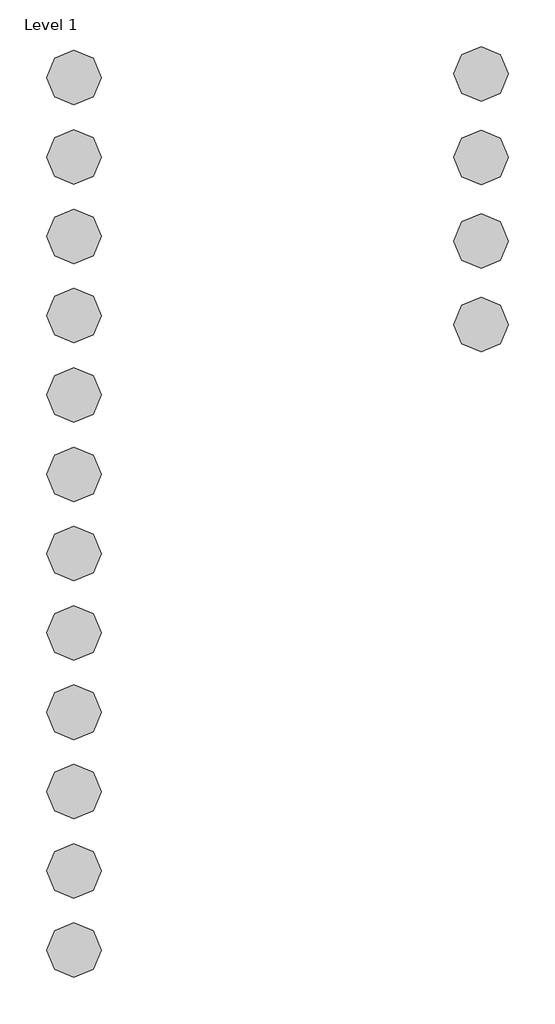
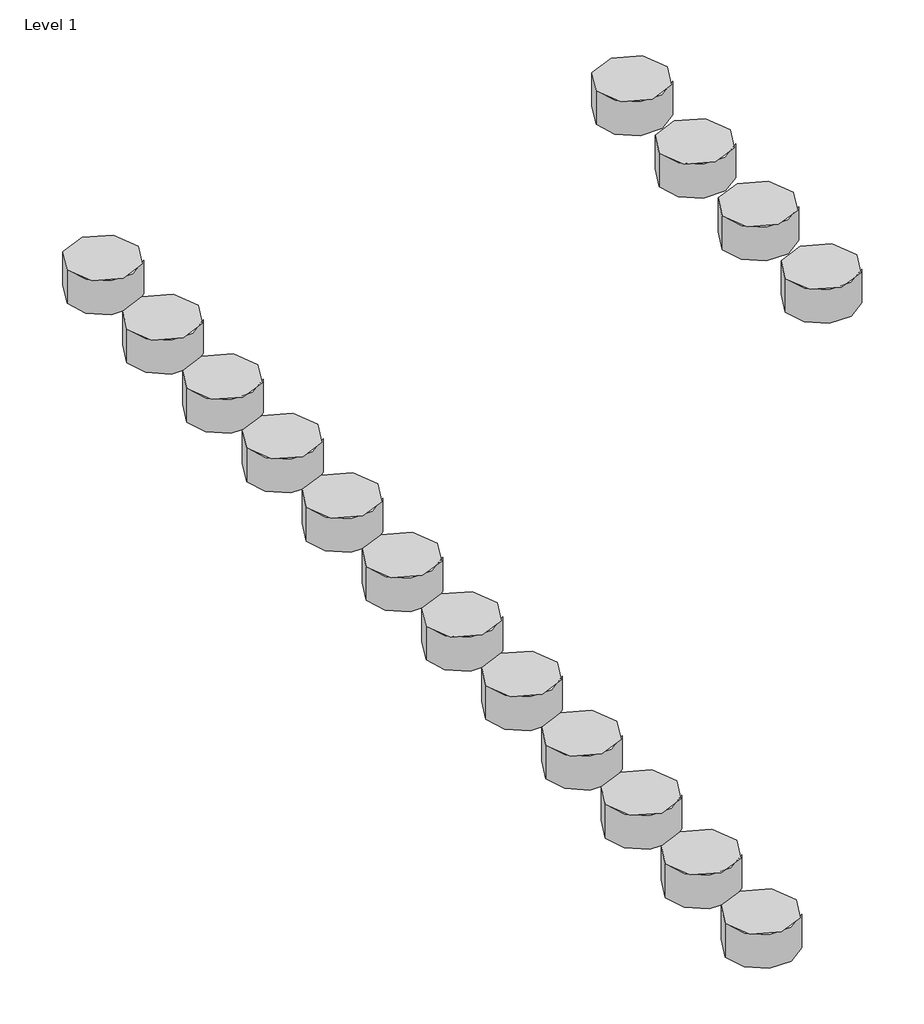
# One storey, incomplete: 16 proxies.
"""IFC4 building model written with IfcOpenShell, lengths in millimetres."""

from ifc_helpers import new_model, si_unit, origin, place, context, project, spatial, transform, mapped, element, save
from components import materialmodel_materialmodel_02e69005

model = new_model("IFC4")

# Units and contexts
model_context = context("Model", 3, world=origin())
ifc_project = project(units=[si_unit("LENGTHUNIT", "METRE", prefix="MILLI")], contexts=[model_context])

# Site, building, storey
site = spatial("IfcSite", under=ifc_project)
building = spatial("IfcBuilding", under=site)
storey = spatial("IfcBuildingStorey", under=building, Name="Level 1", Elevation=0.0)

# Proxies
placement = place(None, origin())
materialmodel_materialmodel_shape = materialmodel_materialmodel_02e69005(model_context)
element("IfcBuildingElementProxy", 1, Name="MaterialModel : MaterialModel", ObjectType="MaterialModel : MaterialModel", at=placement, inside=storey, context=model_context, shape_type="MappedRepresentation", body=[
    mapped(materialmodel_materialmodel_shape, transform((-5722.6011297, 4408.6509525, 0.0), x_axis=(1.0, 0.0, 0.0), y_axis=(0.0, 1.0, 0.0), z_axis=(0.0, 0.0, 1.0))),
])
element("IfcBuildingElementProxy", 2, Name="MaterialModel : MaterialModel", ObjectType="MaterialModel : MaterialModel", at=placement, inside=storey, context=model_context, shape_type="MappedRepresentation", body=[
    mapped(materialmodel_materialmodel_shape, transform((-4975.8547155, 4415.7878335, 0.0), x_axis=(1.0, 0.0, 0.0), y_axis=(0.0, 1.0, 0.0), z_axis=(0.0, 0.0, 1.0))),
])
element("IfcBuildingElementProxy", 3, Name="MaterialModel : MaterialModel", ObjectType="MaterialModel : MaterialModel", at=placement, inside=storey, context=model_context, shape_type="MappedRepresentation", body=[
    mapped(materialmodel_materialmodel_shape, transform((-5722.6011297, 4263.196407, 0.0), x_axis=(1.0, 0.0, 0.0), y_axis=(0.0, 1.0, 0.0), z_axis=(0.0, 0.0, 1.0))),
])
element("IfcBuildingElementProxy", 4, Name="MaterialModel : MaterialModel", ObjectType="MaterialModel : MaterialModel", at=placement, inside=storey, context=model_context, shape_type="MappedRepresentation", body=[
    mapped(materialmodel_materialmodel_shape, transform((-5722.6011297, 4117.7418615, 0.0), x_axis=(1.0, 0.0, 0.0), y_axis=(0.0, 1.0, 0.0), z_axis=(0.0, 0.0, 1.0))),
])
element("IfcBuildingElementProxy", 5, Name="MaterialModel : MaterialModel", ObjectType="MaterialModel : MaterialModel", at=placement, inside=storey, context=model_context, shape_type="MappedRepresentation", body=[
    mapped(materialmodel_materialmodel_shape, transform((-5722.6011297, 3972.2873161, 0.0), x_axis=(1.0, 0.0, 0.0), y_axis=(0.0, 1.0, 0.0), z_axis=(0.0, 0.0, 1.0))),
])
element("IfcBuildingElementProxy", 6, Name="MaterialModel : MaterialModel", ObjectType="MaterialModel : MaterialModel", at=placement, inside=storey, context=model_context, shape_type="MappedRepresentation", body=[
    mapped(materialmodel_materialmodel_shape, transform((-5722.6011297, 3826.8327706, 0.0), x_axis=(1.0, 0.0, 0.0), y_axis=(0.0, 1.0, 0.0), z_axis=(0.0, 0.0, 1.0))),
])
element("IfcBuildingElementProxy", 7, Name="MaterialModel : MaterialModel", ObjectType="MaterialModel : MaterialModel", at=placement, inside=storey, context=model_context, shape_type="MappedRepresentation", body=[
    mapped(materialmodel_materialmodel_shape, transform((-5722.6011297, 3681.3782252, 0.0), x_axis=(1.0, 0.0, 0.0), y_axis=(0.0, 1.0, 0.0), z_axis=(0.0, 0.0, 1.0))),
])
element("IfcBuildingElementProxy", 8, Name="MaterialModel : MaterialModel", ObjectType="MaterialModel : MaterialModel", at=placement, inside=storey, context=model_context, shape_type="MappedRepresentation", body=[
    mapped(materialmodel_materialmodel_shape, transform((-5722.6011297, 3535.9236797, 0.0), x_axis=(1.0, 0.0, 0.0), y_axis=(0.0, 1.0, 0.0), z_axis=(0.0, 0.0, 1.0))),
])
element("IfcBuildingElementProxy", 9, Name="MaterialModel : MaterialModel", ObjectType="MaterialModel : MaterialModel", at=placement, inside=storey, context=model_context, shape_type="MappedRepresentation", body=[
    mapped(materialmodel_materialmodel_shape, transform((-5722.6011297, 3390.4691343, 0.0), x_axis=(1.0, 0.0, 0.0), y_axis=(0.0, 1.0, 0.0), z_axis=(0.0, 0.0, 1.0))),
])
element("IfcBuildingElementProxy", 10, Name="MaterialModel : MaterialModel", ObjectType="MaterialModel : MaterialModel", at=placement, inside=storey, context=model_context, shape_type="MappedRepresentation", body=[
    mapped(materialmodel_materialmodel_shape, transform((-5722.6011297, 3245.0145888, 0.0), x_axis=(1.0, 0.0, 0.0), y_axis=(0.0, 1.0, 0.0), z_axis=(0.0, 0.0, 1.0))),
])
element("IfcBuildingElementProxy", 11, Name="MaterialModel : MaterialModel", ObjectType="MaterialModel : MaterialModel", at=placement, inside=storey, context=model_context, shape_type="MappedRepresentation", body=[
    mapped(materialmodel_materialmodel_shape, transform((-5722.6011297, 3099.5600434, 0.0), x_axis=(1.0, 0.0, 0.0), y_axis=(0.0, 1.0, 0.0), z_axis=(0.0, 0.0, 1.0))),
])
element("IfcBuildingElementProxy", 12, Name="MaterialModel : MaterialModel", ObjectType="MaterialModel : MaterialModel", at=placement, inside=storey, context=model_context, shape_type="MappedRepresentation", body=[
    mapped(materialmodel_materialmodel_shape, transform((-5722.6011297, 2954.1054979, 0.0), x_axis=(1.0, 0.0, 0.0), y_axis=(0.0, 1.0, 0.0), z_axis=(0.0, 0.0, 1.0))),
])
element("IfcBuildingElementProxy", 13, Name="MaterialModel : MaterialModel", ObjectType="MaterialModel : MaterialModel", at=placement, inside=storey, context=model_context, shape_type="MappedRepresentation", body=[
    mapped(materialmodel_materialmodel_shape, transform((-5722.6011297, 2808.6509525, 0.0), x_axis=(1.0, 0.0, 0.0), y_axis=(0.0, 1.0, 0.0), z_axis=(0.0, 0.0, 1.0))),
])
element("IfcBuildingElementProxy", 14, Name="MaterialModel : MaterialModel", ObjectType="MaterialModel : MaterialModel", at=placement, inside=storey, context=model_context, shape_type="MappedRepresentation", body=[
    mapped(materialmodel_materialmodel_shape, transform((-4975.8547155, 4262.4545002, 0.0), x_axis=(1.0, 0.0, 0.0), y_axis=(0.0, 1.0, 0.0), z_axis=(0.0, 0.0, 1.0))),
])
element("IfcBuildingElementProxy", 15, Name="MaterialModel : MaterialModel", ObjectType="MaterialModel : MaterialModel", at=placement, inside=storey, context=model_context, shape_type="MappedRepresentation", body=[
    mapped(materialmodel_materialmodel_shape, transform((-4975.8547155, 4109.1211668, 0.0), x_axis=(1.0, 0.0, 0.0), y_axis=(0.0, 1.0, 0.0), z_axis=(0.0, 0.0, 1.0))),
])
element("IfcBuildingElementProxy", 16, Name="MaterialModel : MaterialModel", ObjectType="MaterialModel : MaterialModel", at=placement, inside=storey, context=model_context, shape_type="MappedRepresentation", body=[
    mapped(materialmodel_materialmodel_shape, transform((-4975.8547155, 3955.7878335, 0.0), x_axis=(1.0, 0.0, 0.0), y_axis=(0.0, 1.0, 0.0), z_axis=(0.0, 0.0, 1.0))),
])

save(model, "model.ifc")
